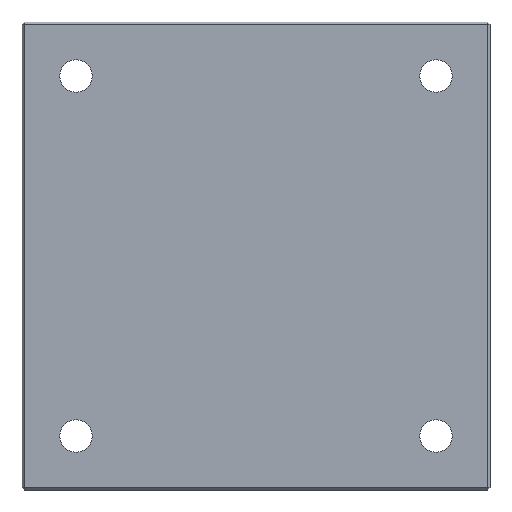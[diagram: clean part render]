
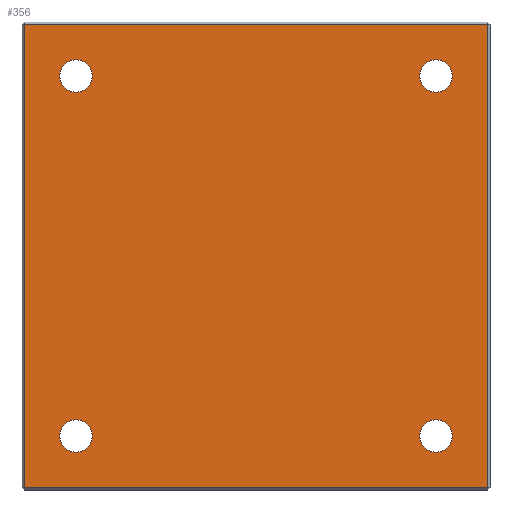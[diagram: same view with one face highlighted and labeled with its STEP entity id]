
A CAD part, front view. The second image highlights one B-rep face of the part: STEP entity #356.
In plain terms, the highlighted planar face has unit normal (0, -1, 0).
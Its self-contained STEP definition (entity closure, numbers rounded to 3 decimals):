
#5 = FACE_BOUND ( 'NONE', #1670, .T. ) ;
#6 = EDGE_LOOP ( 'NONE', ( #2200, #3084 ) ) ;
#7 = CARTESIAN_POINT ( 'NONE',  ( 25., 0., 25. ) ) ;
#39 = AXIS2_PLACEMENT_3D ( 'NONE', #450, #1547, #3251 ) ;
#80 = VERTEX_POINT ( 'NONE', #882 ) ;
#93 = CIRCLE ( 'NONE', #2869, 2.25 ) ;
#163 = AXIS2_PLACEMENT_3D ( 'NONE', #2932, #2436, #2088 ) ;
#177 = CARTESIAN_POINT ( 'NONE',  ( -25., 0., -25. ) ) ;
#194 = DIRECTION ( 'NONE',  ( 0., 1., 0. ) ) ;
#240 = ORIENTED_EDGE ( 'NONE', *, *, #3241, .T. ) ;
#273 = EDGE_CURVE ( 'NONE', #2763, #2858, #1776, .T. ) ;
#277 = FACE_BOUND ( 'NONE', #3054, .T. ) ;
#281 = CIRCLE ( 'NONE', #3168, 2.25 ) ;
#332 = DIRECTION ( 'NONE',  ( 0., 1., 0. ) ) ;
#349 = CARTESIAN_POINT ( 'NONE',  ( 25., 0., 25. ) ) ;
#352 = LINE ( 'NONE', #1170, #3065 ) ;
#356 = ADVANCED_FACE ( 'NONE', ( #2552, #5, #1128, #3370, #277 ), #817, .F. ) ;
#364 = EDGE_CURVE ( 'NONE', #1166, #2917, #93, .T. ) ;
#450 = CARTESIAN_POINT ( 'NONE',  ( -25., 0., 25. ) ) ;
#461 = CIRCLE ( 'NONE', #1442, 2.25 ) ;
#468 = EDGE_LOOP ( 'NONE', ( #240, #3365, #3329, #871 ) ) ;
#537 = ORIENTED_EDGE ( 'NONE', *, *, #1883, .T. ) ;
#576 = VECTOR ( 'NONE', #2980, 1000. ) ;
#621 = DIRECTION ( 'NONE',  ( 0., 0., 1. ) ) ;
#641 = CARTESIAN_POINT ( 'NONE',  ( -25., 0., -27.25 ) ) ;
#666 = EDGE_CURVE ( 'NONE', #1220, #80, #3162, .T. ) ;
#817 = PLANE ( 'NONE',  #1481 ) ;
#818 = ORIENTED_EDGE ( 'NONE', *, *, #666, .T. ) ;
#871 = ORIENTED_EDGE ( 'NONE', *, *, #2527, .T. ) ;
#882 = CARTESIAN_POINT ( 'NONE',  ( -25., 0., 22.75 ) ) ;
#890 = DIRECTION ( 'NONE',  ( 0., 1., 0. ) ) ;
#909 = DIRECTION ( 'NONE',  ( 1., 0., 0. ) ) ;
#916 = AXIS2_PLACEMENT_3D ( 'NONE', #1264, #1296, #2363 ) ;
#1039 = CARTESIAN_POINT ( 'NONE',  ( -32.2, 0., 32.5 ) ) ;
#1123 = EDGE_CURVE ( 'NONE', #80, #1220, #1378, .T. ) ;
#1128 = FACE_BOUND ( 'NONE', #6, .T. ) ;
#1166 = VERTEX_POINT ( 'NONE', #2757 ) ;
#1170 = CARTESIAN_POINT ( 'NONE',  ( 32.5, 0., -32.2 ) ) ;
#1218 = EDGE_CURVE ( 'NONE', #2917, #1166, #281, .T. ) ;
#1220 = VERTEX_POINT ( 'NONE', #3055 ) ;
#1225 = CARTESIAN_POINT ( 'NONE',  ( 32.2, 0., -32.2 ) ) ;
#1226 = CARTESIAN_POINT ( 'NONE',  ( 25., 0., 22.75 ) ) ;
#1264 = CARTESIAN_POINT ( 'NONE',  ( -25., 0., -25. ) ) ;
#1296 = DIRECTION ( 'NONE',  ( 0., 1., 0. ) ) ;
#1378 = CIRCLE ( 'NONE', #2938, 2.25 ) ;
#1384 = ORIENTED_EDGE ( 'NONE', *, *, #1123, .T. ) ;
#1442 = AXIS2_PLACEMENT_3D ( 'NONE', #177, #194, #3492 ) ;
#1481 = AXIS2_PLACEMENT_3D ( 'NONE', #1701, #890, #3296 ) ;
#1490 = CIRCLE ( 'NONE', #3580, 2.25 ) ;
#1508 = DIRECTION ( 'NONE',  ( -1., 0., 0. ) ) ;
#1545 = VECTOR ( 'NONE', #3022, 1000. ) ;
#1547 = DIRECTION ( 'NONE',  ( 0., 1., 0. ) ) ;
#1570 = EDGE_CURVE ( 'NONE', #2409, #2909, #1490, .T. ) ;
#1616 = CARTESIAN_POINT ( 'NONE',  ( 25., 0., -22.75 ) ) ;
#1631 = LINE ( 'NONE', #1039, #1545 ) ;
#1645 = DIRECTION ( 'NONE',  ( 0., 0., 1. ) ) ;
#1668 = DIRECTION ( 'NONE',  ( 0., 1., 0. ) ) ;
#1670 = EDGE_LOOP ( 'NONE', ( #1745, #537 ) ) ;
#1689 = DIRECTION ( 'NONE',  ( 0., 1., 0. ) ) ;
#1701 = CARTESIAN_POINT ( 'NONE',  ( 32.5, 0., 32.5 ) ) ;
#1710 = VERTEX_POINT ( 'NONE', #1225 ) ;
#1745 = ORIENTED_EDGE ( 'NONE', *, *, #3041, .T. ) ;
#1776 = LINE ( 'NONE', #2891, #1938 ) ;
#1882 = CARTESIAN_POINT ( 'NONE',  ( 32.2, 0., 32.5 ) ) ;
#1883 = EDGE_CURVE ( 'NONE', #3556, #2516, #3586, .T. ) ;
#1919 = CARTESIAN_POINT ( 'NONE',  ( -25., 0., 25. ) ) ;
#1938 = VECTOR ( 'NONE', #1508, 1000. ) ;
#1981 = ORIENTED_EDGE ( 'NONE', *, *, #1218, .T. ) ;
#1987 = DIRECTION ( 'NONE',  ( 0., 0., 1. ) ) ;
#2064 = CIRCLE ( 'NONE', #163, 2.25 ) ;
#2088 = DIRECTION ( 'NONE',  ( 0., 0., 1. ) ) ;
#2200 = ORIENTED_EDGE ( 'NONE', *, *, #1570, .T. ) ;
#2309 = CARTESIAN_POINT ( 'NONE',  ( -32.2, 0., 32.2 ) ) ;
#2363 = DIRECTION ( 'NONE',  ( 0., 0., 1. ) ) ;
#2409 = VERTEX_POINT ( 'NONE', #1616 ) ;
#2436 = DIRECTION ( 'NONE',  ( 0., 1., 0. ) ) ;
#2463 = LINE ( 'NONE', #1882, #576 ) ;
#2516 = VERTEX_POINT ( 'NONE', #3390 ) ;
#2527 = EDGE_CURVE ( 'NONE', #2772, #1710, #352, .T. ) ;
#2534 = CARTESIAN_POINT ( 'NONE',  ( 25., 0., -25. ) ) ;
#2535 = CARTESIAN_POINT ( 'NONE',  ( 32.2, 0., 32.2 ) ) ;
#2552 = FACE_OUTER_BOUND ( 'NONE', #468, .T. ) ;
#2700 = CARTESIAN_POINT ( 'NONE',  ( -32.2, 0., -32.2 ) ) ;
#2757 = CARTESIAN_POINT ( 'NONE',  ( 25., 0., 27.25 ) ) ;
#2763 = VERTEX_POINT ( 'NONE', #2535 ) ;
#2772 = VERTEX_POINT ( 'NONE', #2700 ) ;
#2858 = VERTEX_POINT ( 'NONE', #2309 ) ;
#2869 = AXIS2_PLACEMENT_3D ( 'NONE', #349, #1668, #1645 ) ;
#2891 = CARTESIAN_POINT ( 'NONE',  ( 32.5, 0., 32.2 ) ) ;
#2909 = VERTEX_POINT ( 'NONE', #3148 ) ;
#2917 = VERTEX_POINT ( 'NONE', #1226 ) ;
#2932 = CARTESIAN_POINT ( 'NONE',  ( 25., 0., -25. ) ) ;
#2938 = AXIS2_PLACEMENT_3D ( 'NONE', #1919, #332, #1987 ) ;
#2980 = DIRECTION ( 'NONE',  ( 0., 0., 1. ) ) ;
#3022 = DIRECTION ( 'NONE',  ( 0., 0., -1. ) ) ;
#3041 = EDGE_CURVE ( 'NONE', #2516, #3556, #461, .T. ) ;
#3054 = EDGE_LOOP ( 'NONE', ( #3377, #1981 ) ) ;
#3055 = CARTESIAN_POINT ( 'NONE',  ( -25., 0., 27.25 ) ) ;
#3065 = VECTOR ( 'NONE', #909, 1000. ) ;
#3072 = DIRECTION ( 'NONE',  ( 0., 0., 1. ) ) ;
#3084 = ORIENTED_EDGE ( 'NONE', *, *, #3090, .T. ) ;
#3090 = EDGE_CURVE ( 'NONE', #2909, #2409, #2064, .T. ) ;
#3148 = CARTESIAN_POINT ( 'NONE',  ( 25., 0., -27.25 ) ) ;
#3162 = CIRCLE ( 'NONE', #39, 2.25 ) ;
#3168 = AXIS2_PLACEMENT_3D ( 'NONE', #7, #1689, #621 ) ;
#3195 = EDGE_CURVE ( 'NONE', #2858, #2772, #1631, .T. ) ;
#3203 = EDGE_LOOP ( 'NONE', ( #818, #1384 ) ) ;
#3241 = EDGE_CURVE ( 'NONE', #1710, #2763, #2463, .T. ) ;
#3251 = DIRECTION ( 'NONE',  ( 0., 0., 1. ) ) ;
#3296 = DIRECTION ( 'NONE',  ( -1., 0., 0. ) ) ;
#3311 = DIRECTION ( 'NONE',  ( 0., 1., 0. ) ) ;
#3329 = ORIENTED_EDGE ( 'NONE', *, *, #3195, .T. ) ;
#3365 = ORIENTED_EDGE ( 'NONE', *, *, #273, .T. ) ;
#3370 = FACE_BOUND ( 'NONE', #3203, .T. ) ;
#3377 = ORIENTED_EDGE ( 'NONE', *, *, #364, .T. ) ;
#3390 = CARTESIAN_POINT ( 'NONE',  ( -25., 0., -22.75 ) ) ;
#3492 = DIRECTION ( 'NONE',  ( 0., 0., 1. ) ) ;
#3556 = VERTEX_POINT ( 'NONE', #641 ) ;
#3580 = AXIS2_PLACEMENT_3D ( 'NONE', #2534, #3311, #3072 ) ;
#3586 = CIRCLE ( 'NONE', #916, 2.25 ) ;
